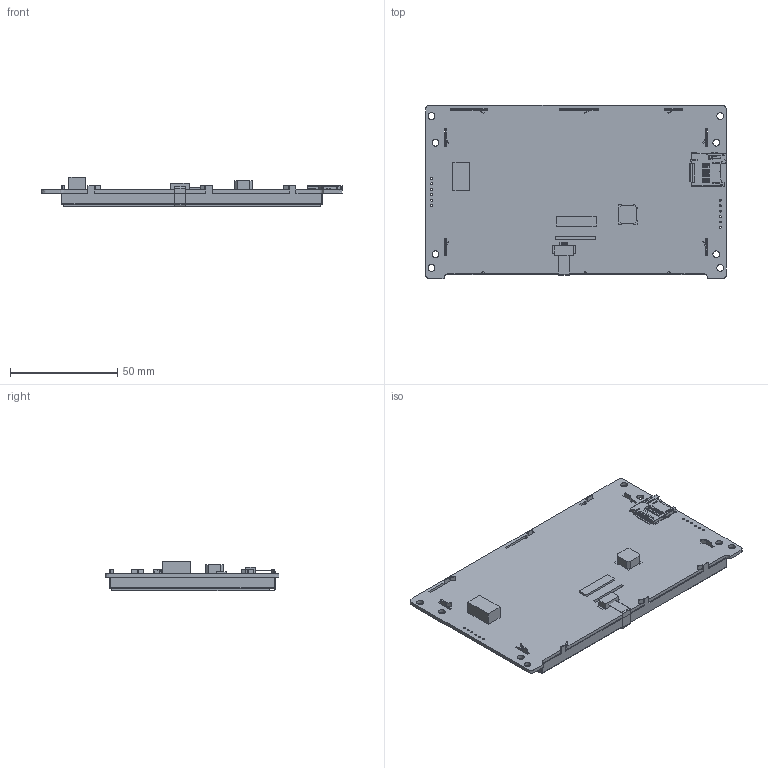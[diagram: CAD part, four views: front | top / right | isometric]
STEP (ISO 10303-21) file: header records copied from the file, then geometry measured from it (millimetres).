
FILE_DESCRIPTION(/* description */ (''),/* implementation_level */ '2;1');
FILE_NAME(/* name */ '',/* time_stamp */ '2023-08-11T14:00:27+08:00',/* author */ (''),/* organization */ (''),/* preprocessor_version */ 'ST-DEVELOPER v11',/* originating_system */ 'SIEMENS PLM Software NX 7.5',/* authorisation */ '');
FILE_SCHEMA (('AP203_CONFIGURATION_CONTROLLED_3D_DESIGN_OF_MECHANICAL_PARTS_AND_ASSEMBLIES_MIM_LF'));
Length unit declared in the file: millimetre
Products named in the file (1): SDWn050T33T
Bounding box: 140 x 80.9 x 13.9 mm (x, y, z)
Volume: 32028 mm3; surface area: 53213.7 mm2
Topology: 15 solids, 15 shells, 1233 faces, 3507 edges, 2280 vertices
Faces by surface type: plane 937, cylinder 294, cone 1, extrusion 1
Full cylindrical faces by diameter (mm): 0.889 x12, 3.2 x8
Entity records: 40694 total; most frequent: CARTESIAN_POINT 7150, ORIENTED_EDGE 6972, DIRECTION 6541, EDGE_CURVE 3486, VECTOR 2887, LINE 2886, VERTEX_POINT 2280, AXIS2_PLACEMENT_3D 1827
